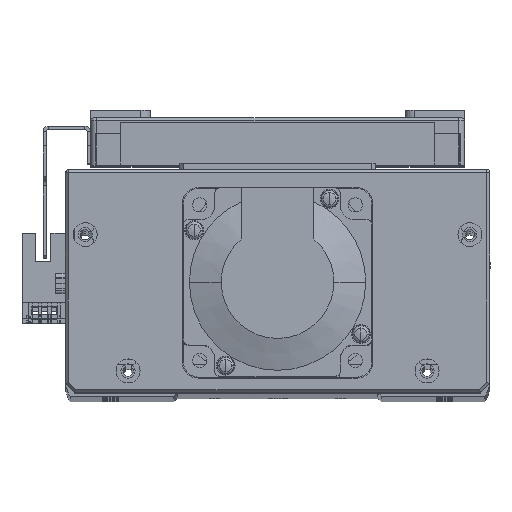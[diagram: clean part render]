
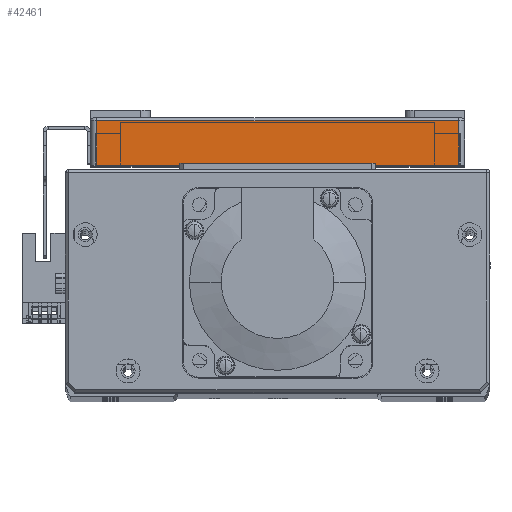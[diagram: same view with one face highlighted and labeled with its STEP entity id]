
A CAD part, top view. The second image highlights one B-rep face of the part: STEP entity #42461.
In plain terms, the highlighted planar face has unit normal (0, 0, 1) as drawn and (-1, 0, 0) by its records, which use the part's own axes.
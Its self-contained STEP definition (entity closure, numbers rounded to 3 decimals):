
#683 = FACE_OUTER_BOUND ( 'NONE', #26758, .T. ) ;
#2070 = AXIS2_PLACEMENT_3D ( 'NONE', #4272, #4295, #4249 ) ;
#4249 = DIRECTION ( 'NONE',  ( 0., 0., -1. ) ) ;
#4272 = CARTESIAN_POINT ( 'NONE',  ( -95., 15., -59.5 ) ) ;
#4274 = PLANE ( 'NONE',  #2070 ) ;
#4295 = DIRECTION ( 'NONE',  ( 1., 0., 0. ) ) ;
#10521 = LINE ( 'NONE', #14837, #10558 ) ;
#10558 = VECTOR ( 'NONE', #14813, 1000. ) ;
#10604 = VECTOR ( 'NONE', #14920, 1000. ) ;
#10627 = VECTOR ( 'NONE', #14907, 1000. ) ;
#10638 = LINE ( 'NONE', #14902, #10627 ) ;
#10694 = LINE ( 'NONE', #14929, #10604 ) ;
#10705 = LINE ( 'NONE', #14984, #10761 ) ;
#10761 = VECTOR ( 'NONE', #15012, 1000. ) ;
#10932 = CARTESIAN_POINT ( 'NONE',  ( -95., 14., 57.5 ) ) ;
#11986 = CARTESIAN_POINT ( 'NONE',  ( -95., 14., -57.5 ) ) ;
#12001 = CARTESIAN_POINT ( 'NONE',  ( -95., 0., -57.5 ) ) ;
#12009 = CARTESIAN_POINT ( 'NONE',  ( -95., 0., 57.5 ) ) ;
#14813 = DIRECTION ( 'NONE',  ( 0., 0., 1. ) ) ;
#14837 = CARTESIAN_POINT ( 'NONE',  ( -95., 0., -59.5 ) ) ;
#14902 = CARTESIAN_POINT ( 'NONE',  ( -95., 15., -57.5 ) ) ;
#14907 = DIRECTION ( 'NONE',  ( 0., -1., 0. ) ) ;
#14920 = DIRECTION ( 'NONE',  ( 0., 1., 0. ) ) ;
#14929 = CARTESIAN_POINT ( 'NONE',  ( -95., 15., 57.5 ) ) ;
#14984 = CARTESIAN_POINT ( 'NONE',  ( -95., 14., -57.5 ) ) ;
#15012 = DIRECTION ( 'NONE',  ( 0., 0., -1. ) ) ;
#20086 = ORIENTED_EDGE ( 'NONE', *, *, #25336, .T. ) ;
#20116 = ORIENTED_EDGE ( 'NONE', *, *, #25338, .T. ) ;
#20117 = ORIENTED_EDGE ( 'NONE', *, *, #25373, .T. ) ;
#20180 = ORIENTED_EDGE ( 'NONE', *, *, #25302, .T. ) ;
#25302 = EDGE_CURVE ( 'NONE', #54263, #54285, #10521, .T. ) ;
#25336 = EDGE_CURVE ( 'NONE', #54285, #54040, #10694, .T. ) ;
#25338 = EDGE_CURVE ( 'NONE', #54282, #54263, #10638, .T. ) ;
#25373 = EDGE_CURVE ( 'NONE', #54040, #54282, #10705, .T. ) ;
#26758 = EDGE_LOOP ( 'NONE', ( #20086, #20117, #20116, #20180 ) ) ;
#42461 = ADVANCED_FACE ( 'NONE', ( #683 ), #4274, .F. ) ;
#54040 = VERTEX_POINT ( 'NONE', #10932 ) ;
#54263 = VERTEX_POINT ( 'NONE', #12001 ) ;
#54282 = VERTEX_POINT ( 'NONE', #11986 ) ;
#54285 = VERTEX_POINT ( 'NONE', #12009 ) ;
